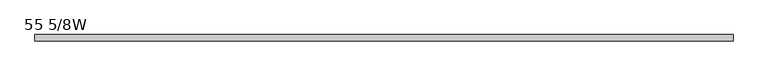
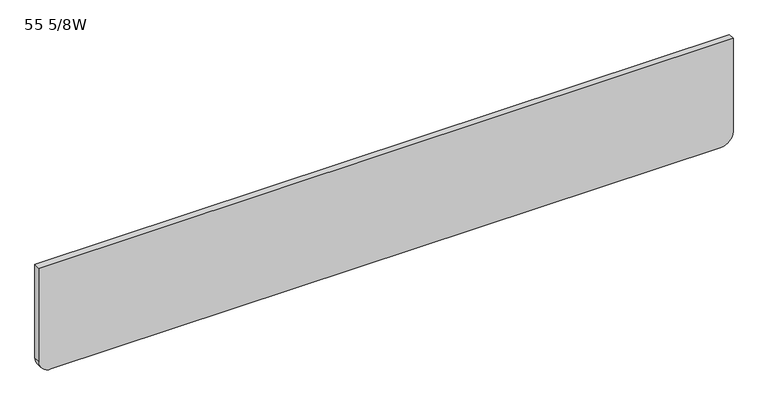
"""IFC4 building model written with IfcOpenShell, lengths in millimetres: furniture geometry, Steelcase - Groupwork - Table Component - Modesty Panel : 55 5/8W."""

from ifc_helpers import new_model, si_unit, point, frame, frame_2d, origin, place, context, project, spatial, polyline, circle_curve, trimmed, segment, composite_curve, outline, extrude, source, transform, mapped, element, save


def furniture_55_5_8w_ef73173b(model_context):
    return source(origin(), model_context, "Body", "SweptSolid", [
        extrude(outline(composite_curve([segment(polyline([(497.8399855, 1584.5116774), (698.5000242, 1584.5116774), (698.5000242, 171.0016774), (497.8399855, 171.0016774)]), True, "CONTINUOUS"), segment(trimmed(circle_curve(frame_2d((497.8399855, 196.4016774)), 25.4), [point((497.8399855, 171.0016774))], [point((472.4399855, 196.4016774))], False, "CARTESIAN"), True, "CONTINUOUS"), segment(polyline([(472.4399855, 196.4016774), (472.4399855, 1559.1116774)]), True, "CONTINUOUS"), segment(trimmed(circle_curve(frame_2d((497.8399855, 1559.1116774)), 25.4), [point((472.4399855, 1559.1116774))], [point((497.8399855, 1584.5116774))], False, "CARTESIAN"), True, "CONTINUOUS")], self_intersect=False)), frame((0.0, -585.8617631, 0.0), z_axis=(0.0, 1.0, 0.0), x_axis=(0.0, 0.0, 1.0)), (0.0, 0.0, 1.0), 12.7),
    ])


if __name__ == "__main__":
    model = new_model("IFC4")
    model_context = context("Model", 3, world=origin())
    ifc_project = project(units=[si_unit("LENGTHUNIT", "METRE", prefix="MILLI")], contexts=[model_context])
    site = spatial("IfcSite", under=ifc_project)
    building = spatial("IfcBuilding", under=site)
    placement = place(None, origin())
    furniture_55_5_8w_shape = furniture_55_5_8w_ef73173b(model_context)
    element("IfcFurniture", 1, ObjectType="Steelcase - Groupwork - Table Component - Modesty Panel : 55 5/8W", at=placement, inside=building, context=model_context, shape_type="MappedRepresentation", body=[
        mapped(furniture_55_5_8w_shape, transform((0.0, 0.0, 0.0), x_axis=(1.0, 0.0, 0.0), y_axis=(0.0, 1.0, 0.0), z_axis=(0.0, 0.0, 1.0))),
    ])
    save(model, "model.ifc")
